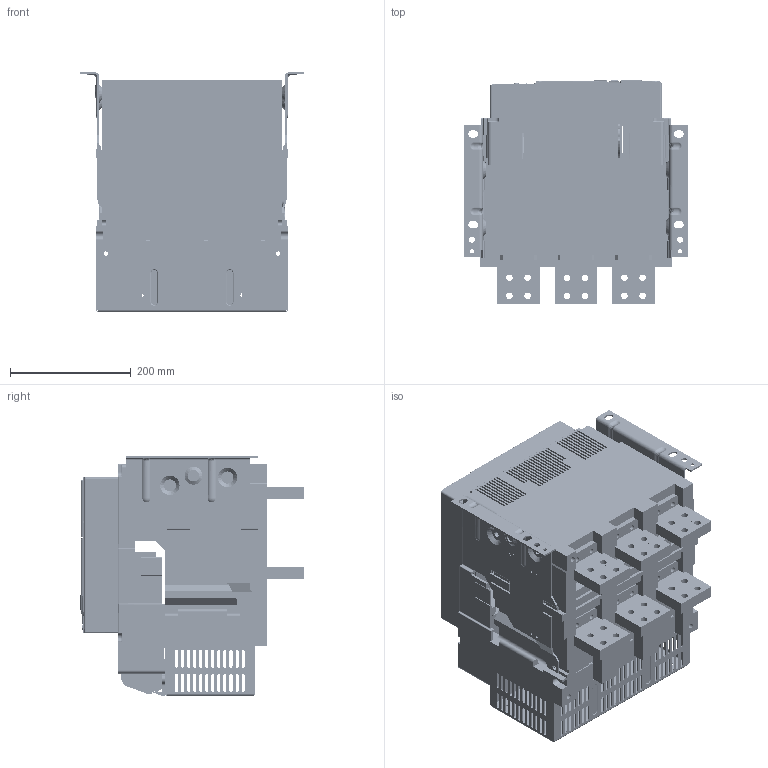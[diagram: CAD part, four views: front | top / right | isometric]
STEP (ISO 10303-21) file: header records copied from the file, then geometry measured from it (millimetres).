
FILE_DESCRIPTION((''),'2;1');
FILE_NAME('NA8-2500H-2500-F-3P_ASM','2020-03-14T14:42:39',('lcc'),(''),'CREO PARAMETRIC BY PTC INC, 2018020','CREO PARAMETRIC BY PTC INC, 2018020','');
FILE_SCHEMA(('CONFIG_CONTROL_DESIGN','SHAPE_APPEARANCE_LAYERS_GROUPS'));
Products named in the file (27): 2500-JIZUO-3P; 2500-DIBAN-3P; 8ZTD_123_166_A; 8ZTD_123_167_A; 8060A0306108; 8060A0306109; 8ZTD_060_208_V4; 8ZTD_253_781; 8ZTD_253_577; 8282A0820014; 8ZTD_321_090; 8ZTD_253_780; 8ZTD_253_779; 8ZTD_282_1203_AF0; 5ZTD_060_113_2_ASM; 8ZTD_300_A051; 8ZTD_253_782; 8ZTD-064-138; 8ZTD-024-689; 8ZTD-860-511; 1600-DUANZI-CTS_ASM; 8-040-432; 8-004-030; 8-320-094; 8-860-KZQ; 8580A0412108; NA8-2500H-2500-F-3P_ASM
Assembly tree (45 placements, depth 3):
  NA8-2500H-2500-F-3P_ASM
    2500-JIZUO-3P
    2500-DIBAN-3P
    8ZTD_123_166_A
    8ZTD_123_167_A
    8060A0306108
    8060A0306109
    5ZTD_060_113_2_ASM
      8ZTD_060_208_V4
      8ZTD_253_781
      8ZTD_253_577
      8282A0820014
      8ZTD_321_090
      8ZTD_253_780
      8ZTD_253_779
      8ZTD_282_1203_AF0  x2
    8ZTD_300_A051
    8ZTD_253_782
    1600-DUANZI-CTS_ASM
      8ZTD-064-138
      8ZTD-024-689  x14
      8ZTD-860-511
    8-040-432
    8-004-030
    8-320-094
    8-860-KZQ
    8580A0412108  x6
Bounding box: 370 x 368.9 x 395.5 mm (x, y, z)
Volume: 16534624.4 mm3; surface area: 2259580.3 mm2
Topology: 43 solids, 70 shells, 9944 faces, 27185 edges, 17974 vertices
Faces by surface type: plane 7809, cylinder 1438, bspline 237, extrusion 198, cone 110, torus 108, sphere 38, revolution 6
Entity records: 313455 total; most frequent: CARTESIAN_POINT 71552, ORIENTED_EDGE 34240, DIRECTION 30754, PRESENTATION_STYLE_ASSIGNMENT 21455, STYLED_ITEM 21403, EDGE_CURVE 17136, CURVE_STYLE 16949, VECTOR 13056
